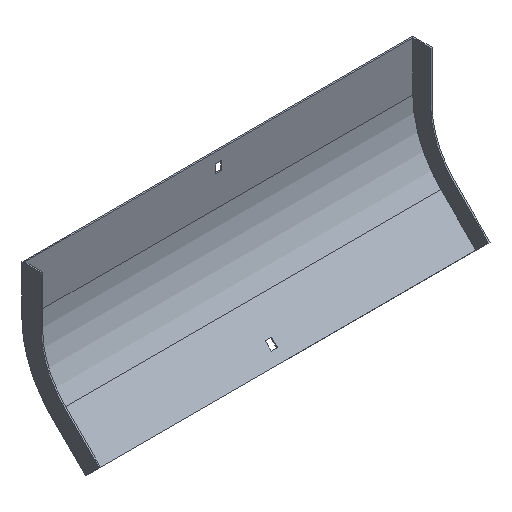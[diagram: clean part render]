
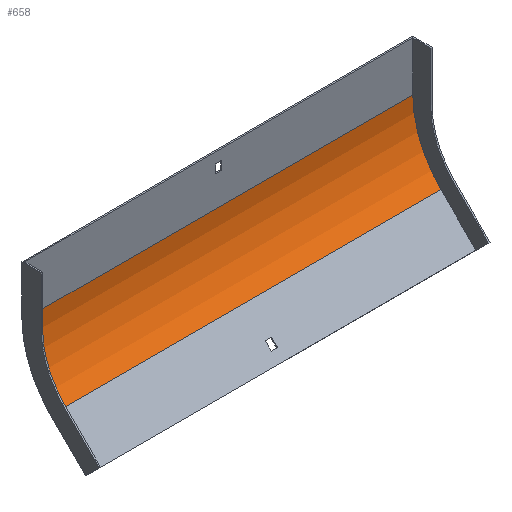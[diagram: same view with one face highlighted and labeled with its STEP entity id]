
A CAD part, isometric view. The second image highlights one B-rep face of the part: STEP entity #658.
In plain terms, the highlighted cylindrical face has radius 100 mm (diameter 200 mm), a partial arc.
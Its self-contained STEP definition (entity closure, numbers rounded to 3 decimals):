
#2 = CARTESIAN_POINT ( 'NONE',  ( 203.5, -30.789, -122.251 ) ) ;
#10 = LINE ( 'NONE', #2, #648 ) ;
#13 = DIRECTION ( 'NONE',  ( 0., 0., 1. ) ) ;
#24 = CIRCLE ( 'NONE', #464, 100. ) ;
#88 = ORIENTED_EDGE ( 'NONE', *, *, #655, .T. ) ;
#127 = CARTESIAN_POINT ( 'NONE',  ( 203.5, -1.5, -51.54 ) ) ;
#147 = DIRECTION ( 'NONE',  ( -1., 0., 0. ) ) ;
#151 = CARTESIAN_POINT ( 'NONE',  ( 203.5, -101.5, -51.54 ) ) ;
#199 = EDGE_LOOP ( 'NONE', ( #551, #581, #88, #678 ) ) ;
#205 = LINE ( 'NONE', #127, #854 ) ;
#253 = DIRECTION ( 'NONE',  ( -1., 0., 0. ) ) ;
#256 = CARTESIAN_POINT ( 'NONE',  ( -202., -30.789, -122.251 ) ) ;
#283 = CIRCLE ( 'NONE', #352, 100. ) ;
#315 = AXIS2_PLACEMENT_3D ( 'NONE', #151, #147, #13 ) ;
#321 = VERTEX_POINT ( 'NONE', #506 ) ;
#341 = CARTESIAN_POINT ( 'NONE',  ( -202., -1.5, -51.54 ) ) ;
#343 = CARTESIAN_POINT ( 'NONE',  ( 202., -101.5, -51.54 ) ) ;
#352 = AXIS2_PLACEMENT_3D ( 'NONE', #613, #812, #687 ) ;
#403 = DIRECTION ( 'NONE',  ( 1., 0., 0. ) ) ;
#406 = VERTEX_POINT ( 'NONE', #512 ) ;
#407 = DIRECTION ( 'NONE',  ( 0., 0., 1. ) ) ;
#462 = EDGE_CURVE ( 'NONE', #406, #549, #10, .T. ) ;
#464 = AXIS2_PLACEMENT_3D ( 'NONE', #343, #403, #407 ) ;
#506 = CARTESIAN_POINT ( 'NONE',  ( 202., -1.5, -51.54 ) ) ;
#512 = CARTESIAN_POINT ( 'NONE',  ( 202., -30.789, -122.251 ) ) ;
#549 = VERTEX_POINT ( 'NONE', #256 ) ;
#551 = ORIENTED_EDGE ( 'NONE', *, *, #670, .F. ) ;
#581 = ORIENTED_EDGE ( 'NONE', *, *, #462, .F. ) ;
#604 = FACE_OUTER_BOUND ( 'NONE', #199, .T. ) ;
#613 = CARTESIAN_POINT ( 'NONE',  ( -202., -101.5, -51.54 ) ) ;
#648 = VECTOR ( 'NONE', #736, 1000. ) ;
#655 = EDGE_CURVE ( 'NONE', #406, #321, #24, .T. ) ;
#658 = ADVANCED_FACE ( 'NONE', ( #604 ), #752, .F. ) ;
#670 = EDGE_CURVE ( 'NONE', #549, #857, #283, .T. ) ;
#678 = ORIENTED_EDGE ( 'NONE', *, *, #794, .T. ) ;
#687 = DIRECTION ( 'NONE',  ( 0., 0., 1. ) ) ;
#736 = DIRECTION ( 'NONE',  ( -1., 0., 0. ) ) ;
#752 = CYLINDRICAL_SURFACE ( 'NONE', #315, 100. ) ;
#794 = EDGE_CURVE ( 'NONE', #321, #857, #205, .T. ) ;
#812 = DIRECTION ( 'NONE',  ( 1., 0., 0. ) ) ;
#854 = VECTOR ( 'NONE', #253, 1000. ) ;
#857 = VERTEX_POINT ( 'NONE', #341 ) ;
